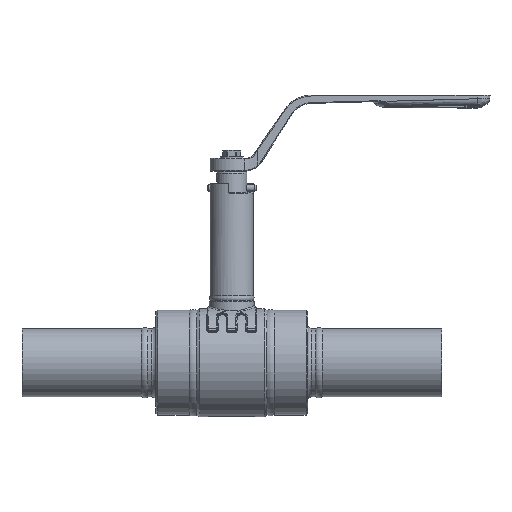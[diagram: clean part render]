
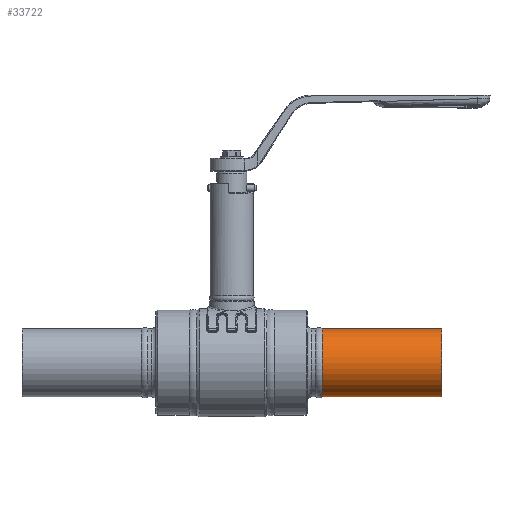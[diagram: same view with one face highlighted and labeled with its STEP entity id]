
A CAD part, front view. The second image highlights one B-rep face of the part: STEP entity #33722.
In plain terms, the highlighted cylindrical face has radius 21.2 mm (diameter 42.4 mm), a partial arc.
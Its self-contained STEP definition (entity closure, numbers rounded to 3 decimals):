
#10514=CARTESIAN_POINT('',(56.,0.,0.));
#10515=DIRECTION('',(1.,0.,0.));
#10516=DIRECTION('',(0.,0.,1.));
#10517=AXIS2_PLACEMENT_3D('',#10514,#10515,#10516);
#10524=DIRECTION('',(1.,0.,0.));
#10525=VECTOR('',#10524,74.);
#10526=CARTESIAN_POINT('',(56.,0.,-21.2));
#10527=LINE('',#10526,#10525);
#10528=DIRECTION('',(1.,0.,0.));
#10529=VECTOR('',#10528,74.);
#10530=CARTESIAN_POINT('',(56.,0.,21.2));
#10531=LINE('',#10530,#10529);
#10532=CARTESIAN_POINT('',(130.,0.,0.));
#10533=DIRECTION('',(1.,0.,0.));
#10534=DIRECTION('',(0.,0.,1.));
#10535=AXIS2_PLACEMENT_3D('',#10532,#10533,#10534);
#14438=CARTESIAN_POINT('',(130.,0.,21.2));
#14439=CARTESIAN_POINT('',(130.,0.,-21.2));
#14440=VERTEX_POINT('',#14438);
#14441=VERTEX_POINT('',#14439);
#15650=CARTESIAN_POINT('',(56.,0.,21.2));
#15651=CARTESIAN_POINT('',(56.,0.,-21.2));
#15652=VERTEX_POINT('',#15650);
#15653=VERTEX_POINT('',#15651);
#33708=CARTESIAN_POINT('',(50.2,0.,0.));
#33709=DIRECTION('',(1.,0.,0.));
#33710=DIRECTION('',(0.,0.,1.));
#33711=AXIS2_PLACEMENT_3D('',#33708,#33709,#33710);
#33712=CYLINDRICAL_SURFACE('',#33711,21.2);
#33713=ORIENTED_EDGE('',*,*,#33683,.F.);
#33715=ORIENTED_EDGE('',*,*,#33714,.T.);
#33717=ORIENTED_EDGE('',*,*,#33716,.T.);
#33719=ORIENTED_EDGE('',*,*,#33718,.F.);
#33720=EDGE_LOOP('',(#33713,#33715,#33717,#33719));
#33721=FACE_OUTER_BOUND('',#33720,.F.);
#10518=CIRCLE('',#10517,21.2);
#10536=CIRCLE('',#10535,21.2);
#33683=EDGE_CURVE('',#15652,#15653,#10518,.T.);
#33714=EDGE_CURVE('',#15652,#14440,#10531,.T.);
#33716=EDGE_CURVE('',#14440,#14441,#10536,.T.);
#33718=EDGE_CURVE('',#15653,#14441,#10527,.T.);
#33722=ADVANCED_FACE('',(#33721),#33712,.T.);
